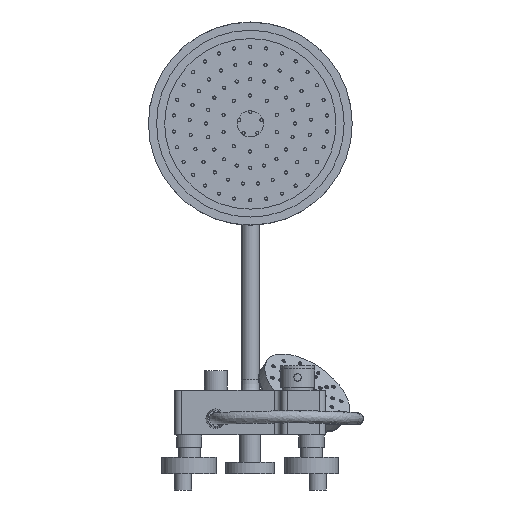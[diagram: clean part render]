
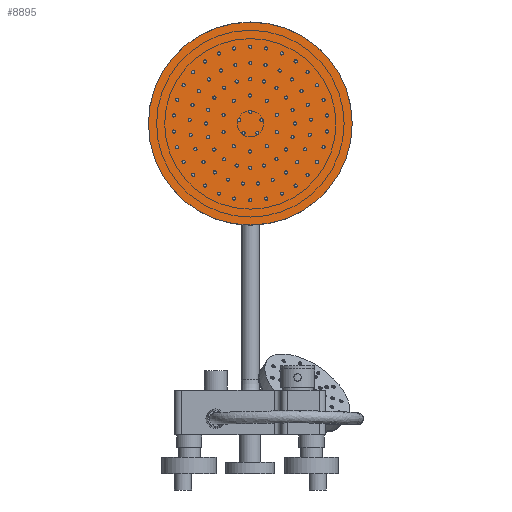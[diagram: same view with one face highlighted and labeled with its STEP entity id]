
A CAD part, front view. The second image highlights one B-rep face of the part: STEP entity #8895.
In plain terms, the highlighted planar face has unit normal (0, -0.996, 0.087).
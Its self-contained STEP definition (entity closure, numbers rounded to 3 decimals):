
#554=PLANE('',#9948);
#982=FACE_OUTER_BOUND('',#1640,.T.);
#1640=EDGE_LOOP('',(#6376,#6377));
#3330=CIRCLE('',#9946,125.);
#3331=CIRCLE('',#9947,125.);
#4050=VERTEX_POINT('',#14731);
#4051=VERTEX_POINT('',#14732);
#5007=EDGE_CURVE('',#4050,#4051,#3330,.T.);
#5008=EDGE_CURVE('',#4051,#4050,#3331,.T.);
#6376=ORIENTED_EDGE('',*,*,#5007,.T.);
#6377=ORIENTED_EDGE('',*,*,#5008,.T.);
#8895=ADVANCED_FACE('',(#982),#554,.T.);
#9946=AXIS2_PLACEMENT_3D('',#14733,#11463,#11464);
#9947=AXIS2_PLACEMENT_3D('',#14734,#11465,#11466);
#9948=AXIS2_PLACEMENT_3D('',#14736,#11468,#11469);
#11463=DIRECTION('center_axis',(0.,-0.996,0.087));
#11464=DIRECTION('ref_axis',(1.,0.,0.));
#11465=DIRECTION('center_axis',(0.,-0.996,0.087));
#11466=DIRECTION('ref_axis',(1.,0.,0.));
#11468=DIRECTION('center_axis',(0.,-0.996,0.087));
#11469=DIRECTION('ref_axis',(0.,-0.087,-0.996));
#14731=CARTESIAN_POINT('',(0.,949.8,229.921));
#14732=CARTESIAN_POINT('',(0.,971.589,478.969));
#14733=CARTESIAN_POINT('Origin',(0.,960.694,354.445));
#14734=CARTESIAN_POINT('Origin',(0.,960.694,354.445));
#14736=CARTESIAN_POINT('Origin',(0.,960.694,354.445));
